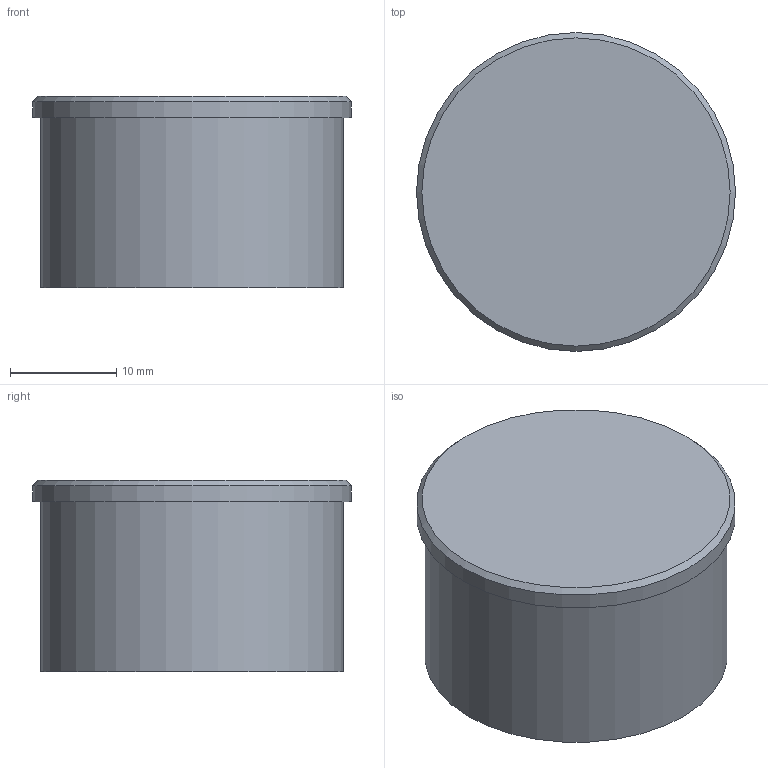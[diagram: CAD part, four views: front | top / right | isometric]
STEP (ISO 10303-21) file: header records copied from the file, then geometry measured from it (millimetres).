
FILE_DESCRIPTION (( 'STEP AP214' ), '1' );
FILE_NAME ('ﾂﾇﾊﾂﾌ4ﾀ.STEP', '2021-05-19T08:13:59', ( '' ), ( '' ), 'SwSTEP 2.0', 'SolidWorks 2018', '' );
FILE_SCHEMA (( 'AUTOMOTIVE_DESIGN' ));
Length unit declared in the file: millimetre
Products named in the file (1): ﾂﾇﾊﾂﾌ4ﾀ
Bounding box: 30 x 30 x 18 mm (x, y, z)
Volume: 5970.5 mm3; surface area: 3966.6 mm2
Topology: 1 solids, 1 shells, 8 faces, 11 edges, 7 vertices
Faces by surface type: plane 4, cylinder 3, cone 1
Full cylindrical faces by diameter (mm): 23.5 x1, 28.5 x1, 30 x1
Entity records: 188 total; most frequent: DIRECTION 32, CARTESIAN_POINT 23, AXIS2_PLACEMENT_3D 16, EDGE_LOOP 14, ORIENTED_EDGE 14, FACE_OUTER_BOUND 11, ADVANCED_FACE 8, EDGE_CURVE 7
